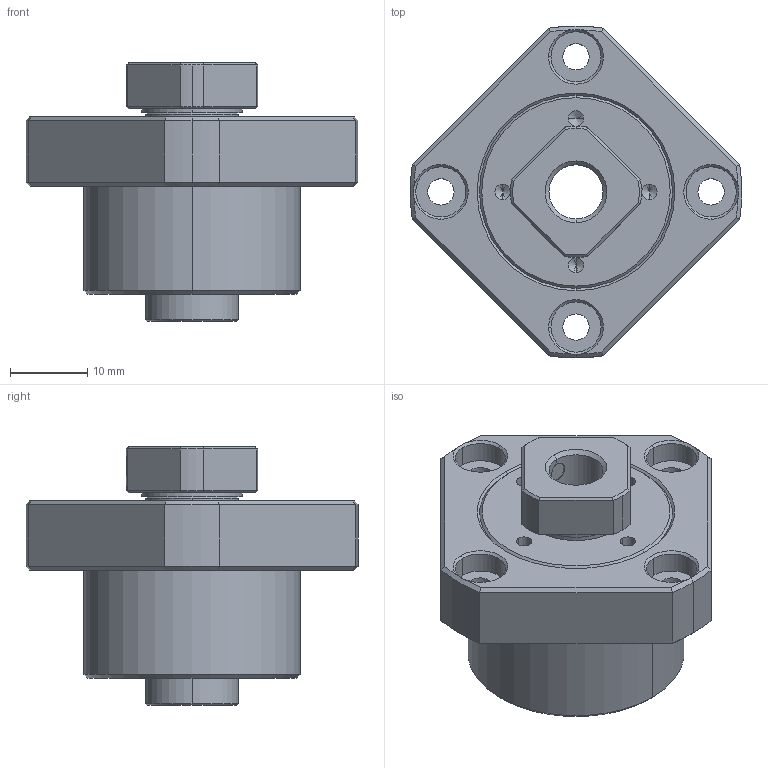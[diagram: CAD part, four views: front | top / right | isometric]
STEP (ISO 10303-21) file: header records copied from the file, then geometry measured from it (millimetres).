
FILE_DESCRIPTION (( 'STEP AP203' ), '1' );
FILE_NAME ('FSGK-8-P0-C7_203.STEP', '2013-02-28T00:24:25', ( '' ), ( '' ), 'SwSTEP 2.0', 'SolidWorks 2012', '' );
FILE_SCHEMA (( 'CONFIG_CONTROL_DESIGN' ));
Length unit declared in the file: millimetre
Products named in the file (1): FSGK-8-P0-C7_203
Bounding box: 42.93 x 43 x 33.5 mm (x, y, z)
Volume: 17711.2 mm3; surface area: 8296.7 mm2
Topology: 1 solids, 5 shells, 230 faces, 523 edges, 308 vertices
Faces by surface type: cone 86, cylinder 73, plane 55, torus 16
Entity records: 6583 total; most frequent: CARTESIAN_POINT 1250, DIRECTION 1202, ORIENTED_EDGE 1026, EDGE_CURVE 513, AXIS2_PLACEMENT_3D 502, VERTEX_POINT 308, CIRCLE 271, EDGE_LOOP 261
